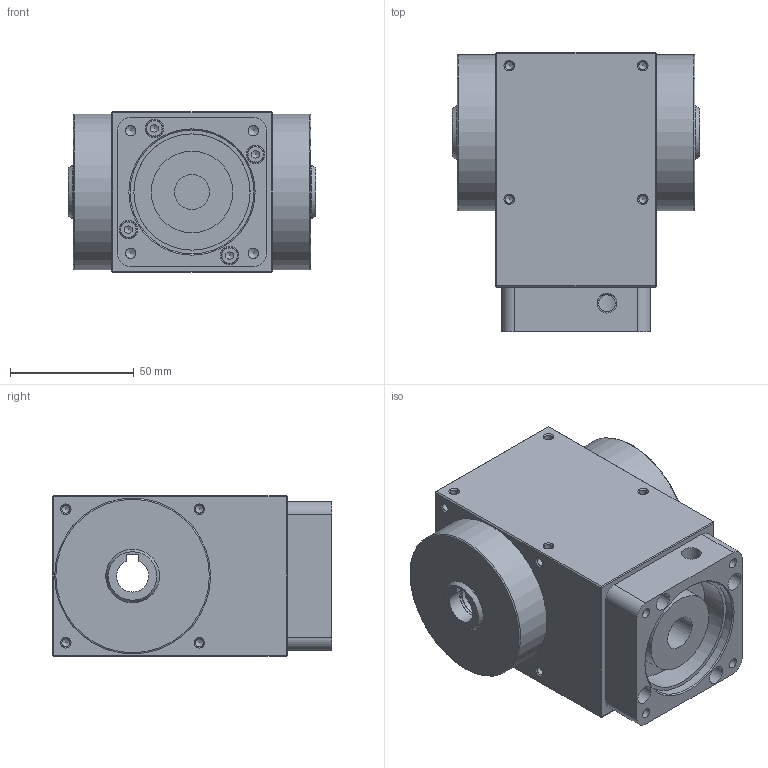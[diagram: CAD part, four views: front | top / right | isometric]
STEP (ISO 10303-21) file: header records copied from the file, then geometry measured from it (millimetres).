
FILE_DESCRIPTION((''),'2;1');
FILE_NAME('D:\유성\SBT 베벨기어박스\최종도면모음\3D\SBT065\홈페이지용\SBT065MHS001H.stp','2014-05-20T09:09:38',('nagyu'),(''),'Autodesk Inventor 2013','Autodesk Inventor 2013','');
FILE_SCHEMA(('AUTOMOTIVE_DESIGN { 1 0 10303 214 1 1 1 1 }'));
Length unit declared in the file: millimetre
Products named in the file (1): SBT065MHS001H_Shrinkwrap_1
Bounding box: 100 x 113 x 65 mm (x, y, z)
Volume: 520577.6 mm3; surface area: 57807.3 mm2
Topology: 1 solids, 5 shells, 236 faces, 613 edges, 379 vertices
Faces by surface type: plane 86, cylinder 85, cone 55, torus 10
Full cylindrical faces by diameter (mm): 3.242 x40, 4 x6, 4.134 x4, 4.5 x4, 7 x4, 7.5 x4, 8 x1, 14 x1, 21.7 x2, 33 x1, 47 x1, 50 x1, 63 x2
Entity records: 6045 total; most frequent: DIRECTION 1082, CARTESIAN_POINT 1054, ORIENTED_EDGE 818, AXIS2_PLACEMENT_3D 465, EDGE_CURVE 409, EDGE_LOOP 400, VERTEX_POINT 311, FACE_OUTER_BOUND 236
